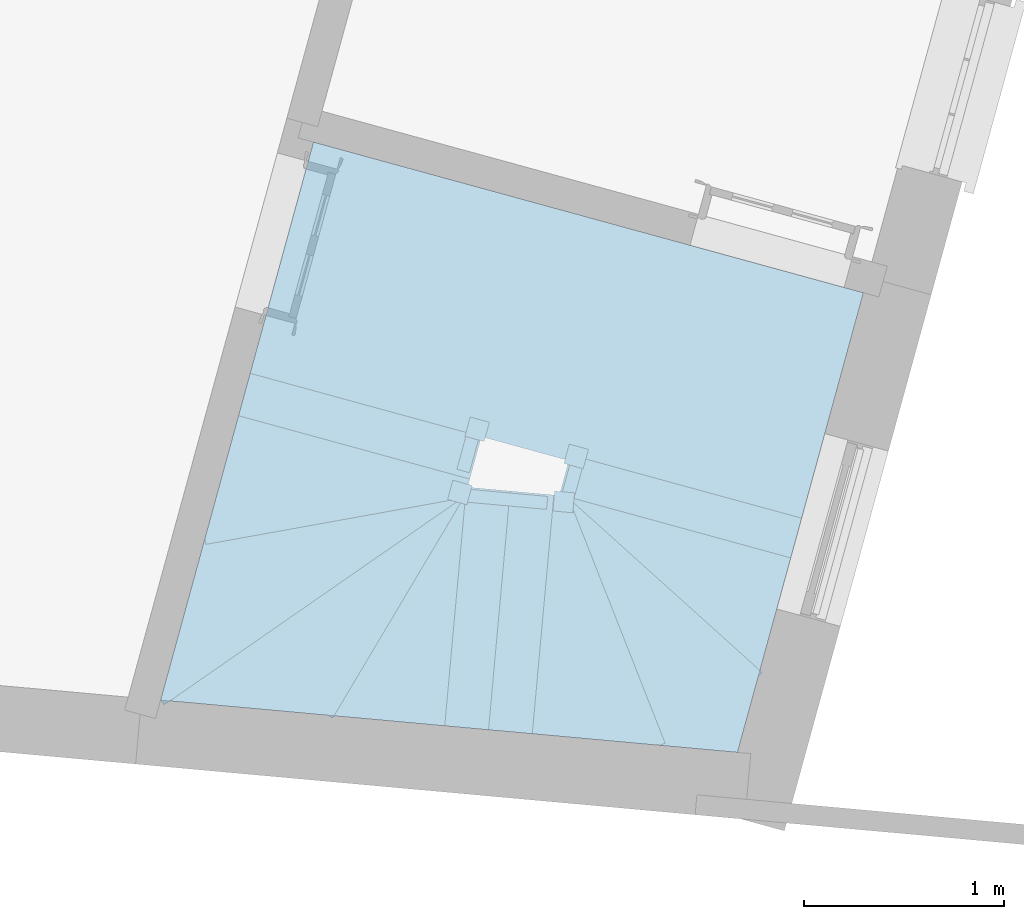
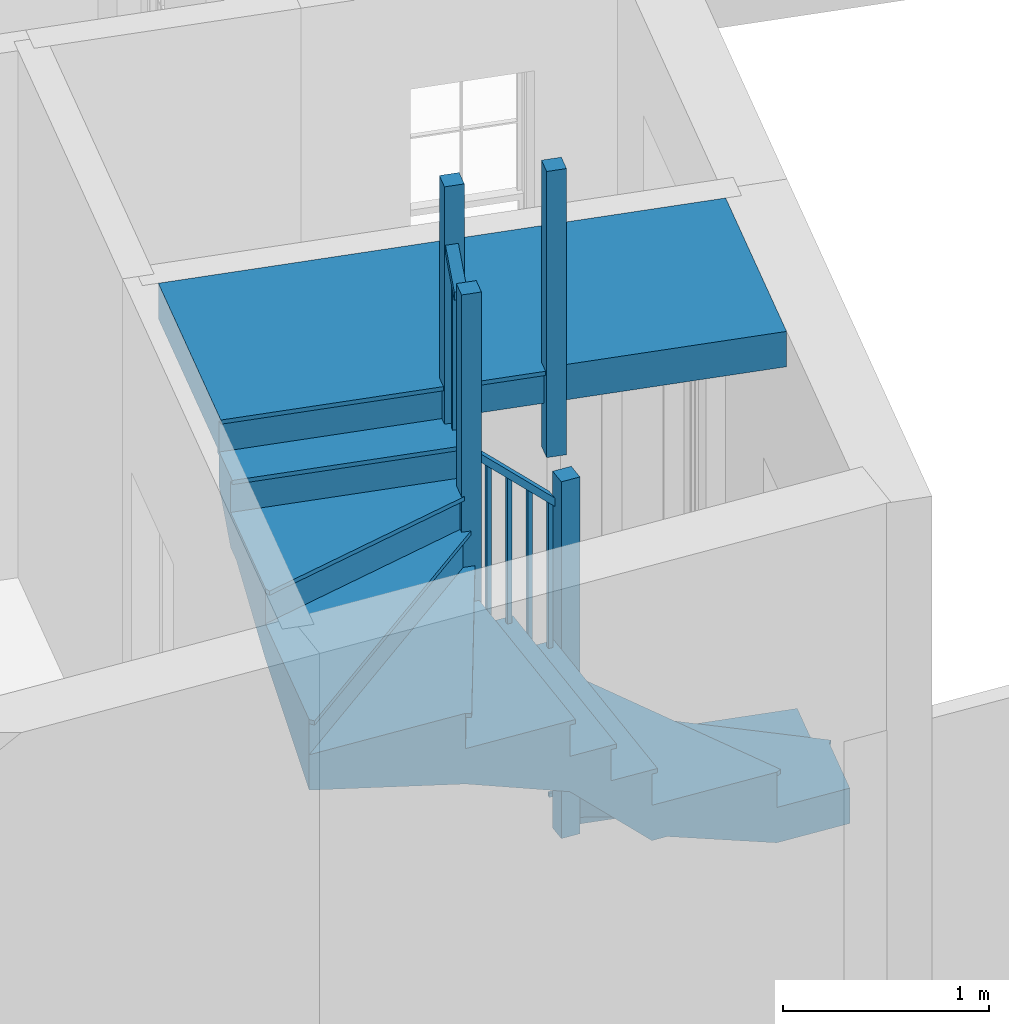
# One storey, part 8 of 8: 1 stair.
"""IFC4 building model written with IfcOpenShell, lengths in metres."""

from ifc_helpers import new_model, si_unit, frame, origin, origin_with_axes, place, context, subcontext, project, spatial, faceted_brep, element, save


model = new_model("IFC4")

# Units and contexts
model_context = context("Model", 3, world=origin_with_axes())
body_context = subcontext(model_context, "Body", "Model", "MODEL_VIEW")
ifc_project = project(units=[si_unit("PLANEANGLEUNIT", "RADIAN"), si_unit("MASSUNIT", "GRAM", prefix="KILO"), si_unit("FORCEUNIT", "NEWTON", prefix="KILO"), si_unit("LENGTHUNIT", "METRE"), si_unit("AREAUNIT", "SQUARE_METRE"), si_unit("VOLUMEUNIT", "CUBIC_METRE")], contexts=[model_context, model_context])

# Sites, building, storey
site_1_placement = place(None, origin_with_axes())
site_1 = spatial("IfcSite", under=ifc_project, at=site_1_placement, Name="Tamar")
site_2_placement = place(site_1_placement, origin_with_axes())
site_2 = spatial("IfcSite", under=site_1, at=site_2_placement, Name="Site plot-28", CompositionType="ELEMENT")
building_placement = place(None, origin_with_axes())
building = spatial("IfcBuilding", under=site_2, at=building_placement, Name="Building plot-28", CompositionType="ELEMENT")
storey_placement = place(None, frame((0.0, 0.0, 24.0), z_axis=(0.0, 0.0, 1.0), x_axis=(1.0, 0.0, 0.0)))
storey = spatial("IfcBuildingStorey", under=building, at=storey_placement, Name="plot-28 0", CompositionType="ELEMENT", Elevation=24.0)

# Stair
stair_placement = place(None, origin())
element("IfcStair", 1, at=stair_placement, inside=storey, Name="Stair", PredefinedType="NOTDEFINED", context=body_context, shape_type="Brep", body=[
    faceted_brep([(263.99859, 260.812635, 26.94), (262.87018, 261.121813, 26.94), (262.812044, 260.909634, 26.94), (263.940454, 260.600455, 26.94), (263.940454, 260.600455, 26.52), (262.812044, 260.909634, 26.52), (262.87018, 261.121813, 26.73), (263.99859, 260.812635, 26.73)], [[[0, 1, 2, 3]], [[4, 5, 6, 7]], [[7, 6, 1, 0]], [[1, 6, 5, 2]], [[5, 4, 3, 2]], [[3, 4, 7, 0]]]),
    faceted_brep([(262.804116, 260.8807, 26.915), (262.804116, 260.8807, 26.94), (262.812044, 260.909634, 26.915), (262.878108, 261.150747, 26.94), (262.878108, 261.150747, 26.915), (262.87018, 261.121813, 26.915), (262.812044, 260.909634, 26.94), (262.87018, 261.121813, 26.94), (263.96146, 260.563594, 26.94), (263.940454, 260.600455, 26.94), (263.940454, 260.600455, 26.915), (263.96146, 260.563594, 26.915), (264.035451, 260.83364, 26.94), (263.99859, 260.812635, 26.94), (263.99859, 260.812635, 26.915), (264.035451, 260.83364, 26.915)], [[[0, 1, 2]], [[3, 4, 5]], [[2, 1, 6]], [[3, 5, 7]], [[6, 1, 8, 9]], [[2, 6, 9, 10]], [[0, 2, 10, 11]], [[1, 0, 11, 8]], [[9, 8, 12, 13]], [[10, 9, 13, 14]], [[11, 10, 14, 15]], [[8, 11, 15, 12]], [[13, 12, 3, 7]], [[14, 13, 7, 5]], [[15, 14, 5, 4]], [[12, 15, 4, 3]]]),
    faceted_brep([(263.940454, 260.600455, 27.84), (263.94706, 260.624566, 27.84), (263.922949, 260.631173, 27.84), (263.916342, 260.607061, 27.84), (263.916342, 260.607061, 26.94), (263.922949, 260.631173, 26.94), (263.94706, 260.624566, 26.94), (263.940454, 260.600455, 26.94)], [[[0, 1, 2, 3]], [[4, 5, 6, 7]], [[7, 6, 1, 0]], [[6, 5, 2, 1]], [[5, 4, 3, 2]], [[4, 7, 0, 3]]]),
    faceted_brep([(263.969522, 260.706545, 27.945), (263.976128, 260.730656, 27.945), (263.952017, 260.737262, 27.945), (263.945411, 260.713151, 27.945), (263.945411, 260.713151, 26.94), (263.952017, 260.737262, 26.94), (263.976128, 260.730656, 26.94), (263.969522, 260.706545, 26.94)], [[[0, 1, 2, 3]], [[4, 5, 6, 7]], [[7, 6, 1, 0]], [[6, 5, 2, 1]], [[5, 4, 3, 2]], [[4, 7, 0, 3]]]),
    faceted_brep([(263.897053, 260.612346, 27.79), (263.959743, 260.59517, 27.79), (263.959743, 260.59517, 27.84), (263.897053, 260.612346, 27.84), (264.017879, 260.807349, 28.0), (263.95519, 260.824526, 28.0), (263.95519, 260.824526, 28.05), (264.017879, 260.807349, 28.05)], [[[0, 1, 2, 3]], [[4, 5, 6, 7]], [[0, 5, 4, 1]], [[3, 2, 7, 6]], [[0, 3, 6, 5]], [[2, 1, 4, 7]]]),
    faceted_brep([(263.940454, 260.600455, 26.73), (262.812044, 260.909634, 26.73), (262.783509, 260.805488, 26.73), (263.911918, 260.496309, 26.73), (263.911918, 260.496309, 26.52), (262.783509, 260.805488, 26.52), (262.812044, 260.909634, 26.52), (263.940454, 260.600455, 26.52)], [[[0, 1, 2, 3]], [[4, 5, 6, 7]], [[7, 6, 1, 0]], [[6, 5, 2, 1]], [[5, 4, 3, 2]], [[4, 7, 0, 3]]]),
    faceted_brep([(263.911918, 260.496309, 26.705), (263.940852, 260.488381, 26.705), (263.911918, 260.496309, 26.73), (263.969387, 260.592527, 26.705), (263.940454, 260.600455, 26.705), (263.940454, 260.600455, 26.73), (263.940852, 260.488381, 26.73), (263.969387, 260.592527, 26.73)], [[[0, 1, 2]], [[3, 4, 5]], [[1, 6, 2]], [[7, 3, 5]], [[2, 6, 7, 5]], [[0, 2, 5, 4]], [[1, 0, 4, 3]], [[6, 1, 3, 7]]]),
    faceted_brep([(263.946928, 260.434873, 27.93), (263.973354, 260.531319, 27.93), (263.876908, 260.557744, 27.93), (263.850483, 260.461299, 27.93), (263.850483, 260.461299, 26.73), (263.876908, 260.557744, 26.73), (263.973354, 260.531319, 26.73), (263.946928, 260.434873, 26.73)], [[[0, 1, 2, 3]], [[4, 5, 6, 7]], [[7, 6, 1, 0]], [[6, 5, 2, 1]], [[5, 4, 3, 2]], [[4, 7, 0, 3]]]),
    faceted_brep([(262.783509, 260.805488, 26.73), (262.635744, 260.266191, 26.73), (263.911918, 260.496309, 26.73), (263.911918, 260.496309, 26.31), (262.635744, 260.266191, 26.31), (262.783509, 260.805488, 26.52)], [[[0, 1, 2]], [[3, 4, 5]], [[0, 5, 4, 1]], [[4, 3, 2, 1]], [[2, 3, 5, 0]]]),
    faceted_brep([(262.641068, 260.236668, 26.705), (262.641068, 260.236668, 26.73), (262.635744, 260.266191, 26.705), (263.917242, 260.466785, 26.73), (263.917242, 260.466785, 26.705), (263.911918, 260.496309, 26.705), (262.635744, 260.266191, 26.73), (263.911918, 260.496309, 26.73)], [[[0, 1, 2]], [[3, 4, 5]], [[2, 1, 6]], [[3, 5, 7]], [[6, 1, 3, 7]], [[2, 6, 7, 5]], [[0, 2, 5, 4]], [[1, 0, 4, 3]]]),
    faceted_brep([(262.635744, 260.266191, 26.52), (262.414097, 259.457247, 26.52), (263.911918, 260.496309, 26.52), (263.911918, 260.496309, 26.1), (262.414097, 259.457247, 26.1), (262.635744, 260.266191, 26.31)], [[[0, 1, 2]], [[3, 4, 5]], [[0, 5, 4, 1]], [[4, 3, 2, 1]], [[2, 3, 5, 0]]]),
    faceted_brep([(262.414097, 259.457247, 26.495), (262.431197, 259.432598, 26.495), (262.414097, 259.457247, 26.52), (263.929018, 260.471659, 26.495), (263.911918, 260.496309, 26.495), (263.911918, 260.496309, 26.52), (262.431197, 259.432598, 26.52), (263.929018, 260.471659, 26.52)], [[[0, 1, 2]], [[3, 4, 5]], [[1, 6, 2]], [[7, 3, 5]], [[2, 6, 7, 5]], [[0, 2, 5, 4]], [[1, 0, 4, 3]], [[6, 1, 3, 7]]]),
    faceted_brep([(262.414097, 259.457247, 26.31), (263.249434, 259.381549, 26.31), (263.911918, 260.496309, 26.31), (263.911918, 260.496309, 25.89), (263.249434, 259.381549, 25.89), (262.414097, 259.457247, 26.1)], [[[0, 1, 2]], [[3, 4, 5]], [[0, 5, 4, 1]], [[4, 3, 2, 1]], [[2, 3, 5, 0]]]),
    faceted_brep([(263.249434, 259.381549, 26.285), (263.275224, 259.366223, 26.285), (263.249434, 259.381549, 26.31), (263.937708, 260.480982, 26.285), (263.911918, 260.496309, 26.285), (263.911918, 260.496309, 26.31), (263.275224, 259.366223, 26.31), (263.937708, 260.480982, 26.31)], [[[0, 1, 2]], [[3, 4, 5]], [[1, 6, 2]], [[7, 3, 5]], [[2, 6, 7, 5]], [[0, 2, 5, 4]], [[1, 0, 4, 3]], [[6, 1, 3, 7]]]),
    faceted_brep([(263.249434, 259.381549, 26.1), (263.806326, 259.331083, 26.1), (263.911918, 260.496309, 26.1), (263.911918, 260.496309, 25.68), (263.806326, 259.331083, 25.68), (263.249434, 259.381549, 25.89)], [[[0, 1, 2]], [[3, 4, 5]], [[0, 5, 4, 1]], [[4, 3, 2, 1]], [[2, 3, 5, 0]]]),
    faceted_brep([(263.806326, 259.331083, 26.075), (263.836203, 259.328376, 26.075), (263.806326, 259.331083, 26.1), (263.941796, 260.493601, 26.075), (263.911918, 260.496309, 26.075), (263.911918, 260.496309, 26.1), (263.836203, 259.328376, 26.1), (263.941796, 260.493601, 26.1)], [[[0, 1, 2]], [[3, 4, 5]], [[1, 6, 2]], [[7, 3, 5]], [[2, 6, 7, 5]], [[0, 2, 5, 4]], [[1, 0, 4, 3]], [[6, 1, 3, 7]]]),
    faceted_brep([(263.946928, 260.434873, 26.73), (263.973354, 260.531319, 26.73), (263.876908, 260.557744, 26.73), (263.850483, 260.461299, 26.73), (263.850483, 260.461299, 25.6), (263.876908, 260.557744, 25.6), (263.973354, 260.531319, 25.6), (263.946928, 260.434873, 25.6)], [[[0, 1, 2, 3]], [[4, 5, 6, 7]], [[7, 6, 1, 0]], [[6, 5, 2, 1]], [[5, 4, 3, 2]], [[4, 7, 0, 3]]]),
    faceted_brep([(263.911918, 260.496309, 25.89), (263.806326, 259.331083, 25.89), (264.025428, 259.311228, 25.89), (264.13102, 260.476454, 25.89), (264.13102, 260.476454, 25.47), (264.025428, 259.311228, 25.47), (263.806326, 259.331083, 25.68), (263.911918, 260.496309, 25.68)], [[[0, 1, 2, 3]], [[4, 5, 6, 7]], [[7, 6, 1, 0]], [[1, 6, 5, 2]], [[5, 4, 3, 2]], [[3, 4, 7, 0]]]),
    faceted_brep([(264.055305, 259.308521, 25.865), (264.055305, 259.308521, 25.89), (264.025428, 259.311228, 25.865), (263.776448, 259.333791, 25.89), (263.776448, 259.333791, 25.865), (263.806326, 259.331083, 25.865), (264.025428, 259.311228, 25.89), (263.806326, 259.331083, 25.89), (264.163606, 260.503624, 25.89), (264.13102, 260.476454, 25.89), (264.13102, 260.476454, 25.865), (264.163606, 260.503624, 25.865), (263.884748, 260.528894, 25.89), (263.911918, 260.496309, 25.89), (263.911918, 260.496309, 25.865), (263.884748, 260.528894, 25.865)], [[[0, 1, 2]], [[3, 4, 5]], [[2, 1, 6]], [[3, 5, 7]], [[6, 1, 8, 9]], [[2, 6, 9, 10]], [[0, 2, 10, 11]], [[1, 0, 11, 8]], [[9, 8, 12, 13]], [[10, 9, 13, 14]], [[11, 10, 14, 15]], [[8, 11, 15, 12]], [[13, 12, 3, 7]], [[14, 13, 7, 5]], [[15, 14, 5, 4]], [[12, 15, 4, 3]]]),
    faceted_brep([(264.13102, 260.476454, 26.79), (264.106123, 260.47871, 26.79), (264.103866, 260.453812, 26.79), (264.128764, 260.451556, 26.79), (264.128764, 260.451556, 25.89), (264.103866, 260.453812, 25.89), (264.106123, 260.47871, 25.89), (264.13102, 260.476454, 25.89)], [[[0, 1, 2, 3]], [[4, 5, 6, 7]], [[7, 6, 1, 0]], [[6, 5, 2, 1]], [[5, 4, 3, 2]], [[4, 7, 0, 3]]]),
    faceted_brep([(264.021469, 260.486381, 26.895), (263.996571, 260.488638, 26.895), (263.994315, 260.46374, 26.895), (264.019213, 260.461483, 26.895), (264.019213, 260.461483, 25.89), (263.994315, 260.46374, 25.89), (263.996571, 260.488638, 25.89), (264.021469, 260.486381, 25.89)], [[[0, 1, 2, 3]], [[4, 5, 6, 7]], [[7, 6, 1, 0]], [[6, 5, 2, 1]], [[5, 4, 3, 2]], [[4, 7, 0, 3]]]),
    faceted_brep([(264.126959, 260.431637, 26.74), (264.132825, 260.496372, 26.74), (264.132825, 260.496372, 26.79), (264.126959, 260.431637, 26.79), (263.913723, 260.516227, 26.95), (263.907857, 260.451492, 26.95), (263.907857, 260.451492, 27.0), (263.913723, 260.516227, 27.0)], [[[0, 1, 2, 3]], [[4, 5, 6, 7]], [[0, 5, 4, 1]], [[3, 2, 7, 6]], [[0, 3, 6, 5]], [[2, 1, 4, 7]]]),
    faceted_brep([(264.13102, 260.476454, 25.68), (264.025428, 259.311228, 25.68), (264.24453, 259.291373, 25.68), (264.350123, 260.456599, 25.68), (264.350123, 260.456599, 25.26), (264.24453, 259.291373, 25.26), (264.025428, 259.311228, 25.47), (264.13102, 260.476454, 25.47)], [[[0, 1, 2, 3]], [[4, 5, 6, 7]], [[7, 6, 1, 0]], [[1, 6, 5, 2]], [[5, 4, 3, 2]], [[3, 4, 7, 0]]]),
    faceted_brep([(264.274408, 259.288666, 25.655), (264.274408, 259.288666, 25.68), (264.24453, 259.291373, 25.655), (263.99555, 259.313936, 25.68), (263.99555, 259.313936, 25.655), (264.025428, 259.311228, 25.655), (264.24453, 259.291373, 25.68), (264.025428, 259.311228, 25.68), (264.382708, 260.483769, 25.68), (264.350123, 260.456599, 25.68), (264.350123, 260.456599, 25.655), (264.382708, 260.483769, 25.655), (264.10385, 260.509039, 25.68), (264.13102, 260.476454, 25.68), (264.13102, 260.476454, 25.655), (264.10385, 260.509039, 25.655)], [[[0, 1, 2]], [[3, 4, 5]], [[2, 1, 6]], [[3, 5, 7]], [[6, 1, 8, 9]], [[2, 6, 9, 10]], [[0, 2, 10, 11]], [[1, 0, 11, 8]], [[9, 8, 12, 13]], [[10, 9, 13, 14]], [[11, 10, 14, 15]], [[8, 11, 15, 12]], [[13, 12, 3, 7]], [[14, 13, 7, 5]], [[15, 14, 5, 4]], [[12, 15, 4, 3]]]),
    faceted_brep([(264.350123, 260.456599, 26.58), (264.325225, 260.458855, 26.58), (264.322968, 260.433957, 26.58), (264.347866, 260.431701, 26.58), (264.347866, 260.431701, 25.68), (264.322968, 260.433957, 25.68), (264.325225, 260.458855, 25.68), (264.350123, 260.456599, 25.68)], [[[0, 1, 2, 3]], [[4, 5, 6, 7]], [[7, 6, 1, 0]], [[6, 5, 2, 1]], [[5, 4, 3, 2]], [[4, 7, 0, 3]]]),
    faceted_brep([(264.240572, 260.466526, 26.685), (264.215674, 260.468783, 26.685), (264.213417, 260.443885, 26.685), (264.238315, 260.441628, 26.685), (264.238315, 260.441628, 25.68), (264.213417, 260.443885, 25.68), (264.215674, 260.468783, 25.68), (264.240572, 260.466526, 25.68)], [[[0, 1, 2, 3]], [[4, 5, 6, 7]], [[7, 6, 1, 0]], [[6, 5, 2, 1]], [[5, 4, 3, 2]], [[4, 7, 0, 3]]]),
    faceted_brep([(264.346061, 260.411782, 26.53), (264.351928, 260.476517, 26.53), (264.351928, 260.476517, 26.58), (264.346061, 260.411782, 26.58), (264.132825, 260.496372, 26.74), (264.126959, 260.431637, 26.74), (264.126959, 260.431637, 26.79), (264.132825, 260.496372, 26.79)], [[[0, 1, 2, 3]], [[4, 5, 6, 7]], [[0, 5, 4, 1]], [[3, 2, 7, 6]], [[0, 3, 6, 5]], [[2, 1, 4, 7]]]),
    faceted_brep([(264.350123, 260.456599, 25.47), (264.24453, 259.291373, 25.47), (264.326329, 259.283961, 25.47), (264.431922, 260.449186, 25.47), (264.431922, 260.449186, 25.26), (264.326329, 259.283961, 25.26), (264.24453, 259.291373, 25.26), (264.350123, 260.456599, 25.26)], [[[0, 1, 2, 3]], [[4, 5, 6, 7]], [[7, 6, 1, 0]], [[6, 5, 2, 1]], [[5, 4, 3, 2]], [[4, 7, 0, 3]]]),
    faceted_brep([(264.431922, 260.449186, 25.445), (264.434629, 260.479064, 25.445), (264.431922, 260.449186, 25.47), (264.35283, 260.486476, 25.445), (264.350123, 260.456599, 25.445), (264.350123, 260.456599, 25.47), (264.434629, 260.479064, 25.47), (264.35283, 260.486476, 25.47)], [[[0, 1, 2]], [[3, 4, 5]], [[1, 6, 2]], [[7, 3, 5]], [[2, 6, 7, 5]], [[0, 2, 5, 4]], [[1, 0, 4, 3]], [[6, 1, 3, 7]]]),
    faceted_brep([(264.48623, 260.49447, 26.67), (264.386638, 260.503495, 26.67), (264.377613, 260.403903, 26.67), (264.477205, 260.394878, 26.67), (264.477205, 260.394878, 25.47), (264.377613, 260.403903, 25.47), (264.386638, 260.503495, 25.47), (264.48623, 260.49447, 25.47)], [[[0, 1, 2, 3]], [[4, 5, 6, 7]], [[7, 6, 1, 0]], [[6, 5, 2, 1]], [[5, 4, 3, 2]], [[4, 7, 0, 3]]]),
    faceted_brep([(264.326329, 259.283961, 25.47), (264.91147, 259.230935, 25.47), (264.431922, 260.449186, 25.47), (264.431922, 260.449186, 25.05), (264.91147, 259.230935, 25.05), (264.326329, 259.283961, 25.26)], [[[0, 1, 2]], [[3, 4, 5]], [[0, 5, 4, 1]], [[4, 3, 2, 1]], [[2, 3, 5, 0]]]),
    faceted_brep([(264.91147, 259.230935, 25.445), (264.939385, 259.241924, 25.445), (264.91147, 259.230935, 25.47), (264.459837, 260.460175, 25.445), (264.431922, 260.449186, 25.445), (264.431922, 260.449186, 25.47), (264.939385, 259.241924, 25.47), (264.459837, 260.460175, 25.47)], [[[0, 1, 2]], [[3, 4, 5]], [[1, 6, 2]], [[7, 3, 5]], [[2, 6, 7, 5]], [[0, 2, 5, 4]], [[1, 0, 4, 3]], [[6, 1, 3, 7]]]),
    faceted_brep([(264.91147, 259.230935, 25.26), (265.301564, 259.195585, 25.26), (265.405071, 259.573354, 25.26), (264.431922, 260.449186, 25.26), (264.431922, 260.449186, 24.84), (265.405071, 259.573354, 24.84), (265.301564, 259.195585, 25.05), (264.91147, 259.230935, 25.05)], [[[0, 1, 2, 3]], [[4, 5, 6, 7]], [[7, 6, 1, 0]], [[1, 6, 5, 2]], [[5, 4, 3, 2]], [[3, 4, 7, 0]]]),
    faceted_brep([(265.42514, 259.595653, 25.235), (265.42514, 259.595653, 25.26), (265.405071, 259.573354, 25.235), (264.451991, 260.471485, 25.26), (264.451991, 260.471485, 25.235), (264.431922, 260.449186, 25.235), (265.405071, 259.573354, 25.26), (264.431922, 260.449186, 25.26)], [[[0, 1, 2]], [[3, 4, 5]], [[2, 1, 6]], [[3, 5, 7]], [[6, 1, 3, 7]], [[2, 6, 7, 5]], [[0, 2, 5, 4]], [[1, 0, 4, 3]]]),
    faceted_brep([(265.405071, 259.573354, 25.05), (265.560331, 260.140007, 25.05), (264.431922, 260.449186, 25.05), (264.431922, 260.449186, 24.63), (265.560331, 260.140007, 24.63), (265.405071, 259.573354, 24.84)], [[[0, 1, 2]], [[3, 4, 5]], [[0, 5, 4, 1]], [[4, 3, 2, 1]], [[2, 3, 5, 0]]]),
    faceted_brep([(265.568259, 260.168941, 25.025), (265.568259, 260.168941, 25.05), (265.560331, 260.140007, 25.025), (264.439849, 260.47812, 25.05), (264.439849, 260.47812, 25.025), (264.431922, 260.449186, 25.025), (265.560331, 260.140007, 25.05), (264.431922, 260.449186, 25.05)], [[[0, 1, 2]], [[3, 4, 5]], [[2, 1, 6]], [[3, 5, 7]], [[6, 1, 3, 7]], [[2, 6, 7, 5]], [[0, 2, 5, 4]], [[1, 0, 4, 3]]]),
    faceted_brep([(264.48623, 260.49447, 25.47), (264.386638, 260.503495, 25.47), (264.377613, 260.403903, 25.47), (264.477205, 260.394878, 25.47), (264.477205, 260.394878, 24.55), (264.377613, 260.403903, 24.55), (264.386638, 260.503495, 24.55), (264.48623, 260.49447, 24.55)], [[[0, 1, 2, 3]], [[4, 5, 6, 7]], [[7, 6, 1, 0]], [[6, 5, 2, 1]], [[5, 4, 3, 2]], [[4, 7, 0, 3]]]),
    faceted_brep([(264.431922, 260.449186, 24.84), (265.560331, 260.140007, 24.84), (265.618468, 260.352187, 24.84), (264.490058, 260.661366, 24.84), (264.490058, 260.661366, 24.42), (265.618468, 260.352187, 24.42), (265.560331, 260.140007, 24.63), (264.431922, 260.449186, 24.63)], [[[0, 1, 2, 3]], [[4, 5, 6, 7]], [[7, 6, 1, 0]], [[1, 6, 5, 2]], [[5, 4, 3, 2]], [[3, 4, 7, 0]]]),
    faceted_brep([(265.618468, 260.352187, 24.815), (265.626395, 260.381121, 24.815), (265.618468, 260.352187, 24.84), (265.552404, 260.111074, 24.815), (265.560331, 260.140007, 24.815), (265.560331, 260.140007, 24.84), (265.626395, 260.381121, 24.84), (265.552404, 260.111074, 24.84), (264.469052, 260.698227, 24.84), (264.490058, 260.661366, 24.84), (264.490058, 260.661366, 24.815), (264.469052, 260.698227, 24.815), (264.39506, 260.42818, 24.84), (264.431922, 260.449186, 24.84), (264.431922, 260.449186, 24.815), (264.39506, 260.42818, 24.815)], [[[0, 1, 2]], [[3, 4, 5]], [[1, 6, 2]], [[7, 3, 5]], [[2, 6, 8, 9]], [[0, 2, 9, 10]], [[1, 0, 10, 11]], [[6, 1, 11, 8]], [[9, 8, 12, 13]], [[10, 9, 13, 14]], [[11, 10, 14, 15]], [[8, 11, 15, 12]], [[13, 12, 7, 5]], [[14, 13, 5, 4]], [[15, 14, 4, 3]], [[12, 15, 3, 7]]]),
    faceted_brep([(264.490058, 260.661366, 25.74), (264.483451, 260.637254, 25.74), (264.507563, 260.630648, 25.74), (264.514169, 260.654759, 25.74), (264.514169, 260.654759, 24.84), (264.507563, 260.630648, 24.84), (264.483451, 260.637254, 24.84), (264.490058, 260.661366, 24.84)], [[[0, 1, 2, 3]], [[4, 5, 6, 7]], [[7, 6, 1, 0]], [[6, 5, 2, 1]], [[5, 4, 3, 2]], [[4, 7, 0, 3]]]),
    faceted_brep([(264.46099, 260.555276, 25.845), (264.454383, 260.531165, 25.845), (264.478495, 260.524558, 25.845), (264.485101, 260.54867, 25.845), (264.485101, 260.54867, 24.84), (264.478495, 260.524558, 24.84), (264.454383, 260.531165, 24.84), (264.46099, 260.555276, 24.84)], [[[0, 1, 2, 3]], [[4, 5, 6, 7]], [[7, 6, 1, 0]], [[6, 5, 2, 1]], [[5, 4, 3, 2]], [[4, 7, 0, 3]]]),
    faceted_brep([(264.533458, 260.649474, 25.69), (264.470769, 260.666651, 25.69), (264.470769, 260.666651, 25.74), (264.533458, 260.649474, 25.74), (264.412633, 260.454471, 25.9), (264.475322, 260.437295, 25.9), (264.475322, 260.437295, 25.95), (264.412633, 260.454471, 25.95)], [[[0, 1, 2, 3]], [[4, 5, 6, 7]], [[0, 5, 4, 1]], [[3, 2, 7, 6]], [[0, 3, 6, 5]], [[2, 1, 4, 7]]]),
    faceted_brep([(264.490058, 260.661366, 24.63), (265.618468, 260.352187, 24.63), (265.622701, 260.367636, 24.63), (264.494291, 260.676815, 24.63), (264.494291, 260.676815, 24.42), (265.622701, 260.367636, 24.42), (265.618468, 260.352187, 24.42), (264.490058, 260.661366, 24.42)], [[[0, 1, 2, 3]], [[4, 5, 6, 7]], [[7, 6, 1, 0]], [[6, 5, 2, 1]], [[5, 4, 3, 2]], [[4, 7, 0, 3]]]),
    faceted_brep([(264.494291, 260.676815, 24.605), (264.465357, 260.684743, 24.605), (264.494291, 260.676815, 24.63), (264.461124, 260.669293, 24.605), (264.490058, 260.661366, 24.605), (264.490058, 260.661366, 24.63), (264.465357, 260.684743, 24.63), (264.461124, 260.669293, 24.63)], [[[0, 1, 2]], [[3, 4, 5]], [[1, 6, 2]], [[7, 3, 5]], [[2, 6, 7, 5]], [[0, 2, 5, 4]], [[1, 0, 4, 3]], [[6, 1, 3, 7]]]),
    faceted_brep([(264.459281, 260.73825, 28.35), (264.432855, 260.641805, 28.35), (264.529301, 260.61538, 28.35), (264.555726, 260.711825, 28.35), (264.555726, 260.711825, 27.15), (264.529301, 260.61538, 27.15), (264.432855, 260.641805, 27.15), (264.459281, 260.73825, 27.15)], [[[0, 1, 2, 3]], [[4, 5, 6, 7]], [[7, 6, 1, 0]], [[6, 5, 2, 1]], [[5, 4, 3, 2]], [[4, 7, 0, 3]]]),
    faceted_brep([(264.494291, 260.676815, 27.15), (265.622701, 260.367636, 27.15), (265.931879, 261.496046, 27.15), (264.80347, 261.805225, 27.15), (264.80347, 261.805225, 26.94), (265.931879, 261.496046, 26.94), (265.622701, 260.367636, 26.94), (264.494291, 260.676815, 26.94)], [[[0, 1, 2, 3]], [[4, 5, 6, 7]], [[7, 6, 1, 0]], [[6, 5, 2, 1]], [[5, 4, 3, 2]], [[4, 7, 0, 3]]]),
    faceted_brep([(264.774536, 261.813152, 27.125), (264.774536, 261.813152, 27.15), (264.80347, 261.805225, 27.125), (264.465357, 260.684743, 27.15), (264.465357, 260.684743, 27.125), (264.494291, 260.676815, 27.125), (264.80347, 261.805225, 27.15), (264.494291, 260.676815, 27.15)], [[[0, 1, 2]], [[3, 4, 5]], [[2, 1, 6]], [[3, 5, 7]], [[6, 1, 3, 7]], [[2, 6, 7, 5]], [[0, 2, 5, 4]], [[1, 0, 4, 3]]]),
    faceted_brep([(264.459281, 260.73825, 27.15), (264.432855, 260.641805, 27.15), (264.529301, 260.61538, 27.15), (264.555726, 260.711825, 27.15), (264.555726, 260.711825, 26.65), (264.529301, 260.61538, 26.65), (264.432855, 260.641805, 26.65), (264.459281, 260.73825, 26.65)], [[[0, 1, 2, 3]], [[4, 5, 6, 7]], [[7, 6, 1, 0]], [[6, 5, 2, 1]], [[5, 4, 3, 2]], [[4, 7, 0, 3]]]),
    faceted_brep([(264.494291, 260.676815, 27.15), (264.80347, 261.805225, 27.15), (264.307769, 261.941044, 27.15), (263.99859, 260.812635, 27.15), (263.99859, 260.812635, 26.94), (264.307769, 261.941044, 26.94), (264.80347, 261.805225, 26.94), (264.494291, 260.676815, 26.94)], [[[0, 1, 2, 3]], [[4, 5, 6, 7]], [[7, 6, 1, 0]], [[6, 5, 2, 1]], [[5, 4, 3, 2]], [[4, 7, 0, 3]]]),
    faceted_brep([(263.990662, 260.783701, 27.125), (263.990662, 260.783701, 27.15), (263.99859, 260.812635, 27.125), (264.486363, 260.647881, 27.15), (264.486363, 260.647881, 27.125), (264.494291, 260.676815, 27.125), (263.99859, 260.812635, 27.15), (264.494291, 260.676815, 27.15)], [[[0, 1, 2]], [[3, 4, 5]], [[2, 1, 6]], [[3, 5, 7]], [[6, 1, 3, 7]], [[2, 6, 7, 5]], [[0, 2, 5, 4]], [[1, 0, 4, 3]]]),
    faceted_brep([(263.937155, 260.777625, 28.35), (264.0336, 260.751199, 28.35), (264.060025, 260.847644, 28.35), (263.96358, 260.87407, 28.35), (263.96358, 260.87407, 27.15), (264.060025, 260.847644, 27.15), (264.0336, 260.751199, 27.15), (263.937155, 260.777625, 27.15)], [[[0, 1, 2, 3]], [[4, 5, 6, 7]], [[7, 6, 1, 0]], [[6, 5, 2, 1]], [[5, 4, 3, 2]], [[4, 7, 0, 3]]]),
    faceted_brep([(263.99859, 260.812635, 27.15), (264.307769, 261.941044, 27.15), (263.179359, 262.250223, 27.15), (262.87018, 261.121813, 27.15), (262.87018, 261.121813, 26.94), (263.179359, 262.250223, 26.94), (264.307769, 261.941044, 26.94), (263.99859, 260.812635, 26.94)], [[[0, 1, 2, 3]], [[4, 5, 6, 7]], [[7, 6, 1, 0]], [[6, 5, 2, 1]], [[5, 4, 3, 2]], [[4, 7, 0, 3]]]),
    faceted_brep([(262.87018, 261.121813, 27.125), (262.862253, 261.09288, 27.125), (262.87018, 261.121813, 27.15), (263.990662, 260.783701, 27.125), (263.99859, 260.812635, 27.125), (263.99859, 260.812635, 27.15), (262.862253, 261.09288, 27.15), (263.990662, 260.783701, 27.15)], [[[0, 1, 2]], [[3, 4, 5]], [[1, 6, 2]], [[7, 3, 5]], [[2, 6, 7, 5]], [[0, 2, 5, 4]], [[1, 0, 4, 3]], [[6, 1, 3, 7]]]),
    faceted_brep([(263.937155, 260.777625, 27.15), (264.0336, 260.751199, 27.15), (264.060025, 260.847644, 27.15), (263.96358, 260.87407, 27.15), (263.96358, 260.87407, 26.65), (264.060025, 260.847644, 26.65), (264.0336, 260.751199, 26.65), (263.937155, 260.777625, 26.65)], [[[0, 1, 2, 3]], [[4, 5, 6, 7]], [[7, 6, 1, 0]], [[6, 5, 2, 1]], [[5, 4, 3, 2]], [[4, 7, 0, 3]]]),
])

save(model, "model.ifc")
